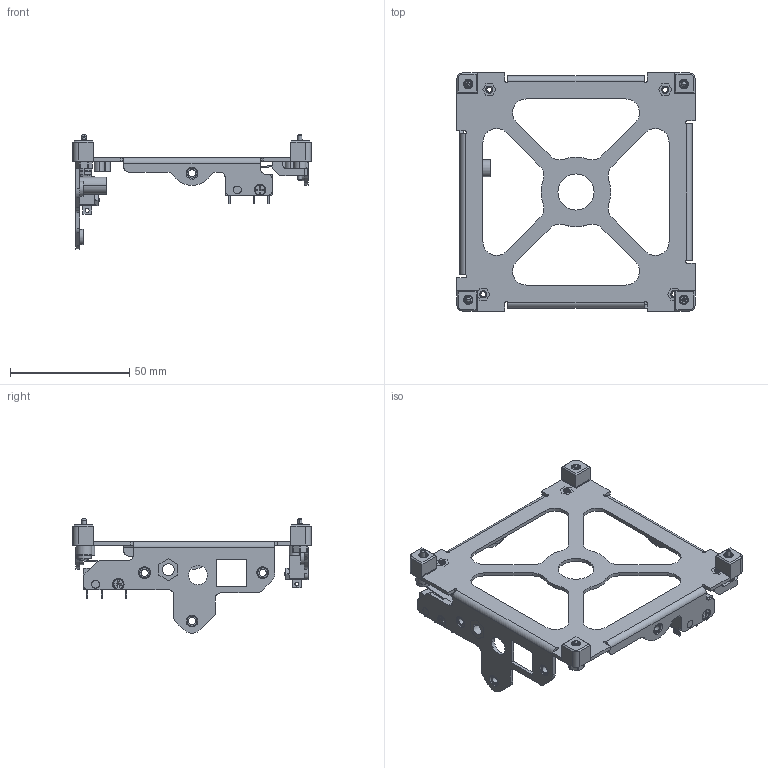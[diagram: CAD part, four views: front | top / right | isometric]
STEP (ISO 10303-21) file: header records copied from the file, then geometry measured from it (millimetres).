
FILE_DESCRIPTION (( 'STEP AP214' ), '1' );
FILE_NAME ('710-00794-E0 Base Plate, Skeleton, Dual Switch.STEP', '2017-11-13T20:53:26', ( '' ), ( '' ), 'SwSTEP 2.0', 'SolidWorks 2014', '' );
FILE_SCHEMA (( 'AUTOMOTIVE_DESIGN' ));
Length unit declared in the file: inch
Products named in the file (2): 710-00794-E0 Base Plate, Skeleton, Dual Switch
Bounding box: 100 x 100 x 47.84 mm (x, y, z)
Volume: 17321.4 mm3; surface area: 23405.3 mm2
Topology: 1 solids, 41 shells, 1598 faces, 3900 edges, 2352 vertices
Faces by surface type: cone 666, plane 493, cylinder 417, torus 16, sphere 6
Entity records: 55487 total; most frequent: DIRECTION 8682, CARTESIAN_POINT 8272, ORIENTED_EDGE 7792, EDGE_CURVE 3896, AXIS2_PLACEMENT_3D 3276, VERTEX_POINT 2352, LINE 2130, VECTOR 2130
